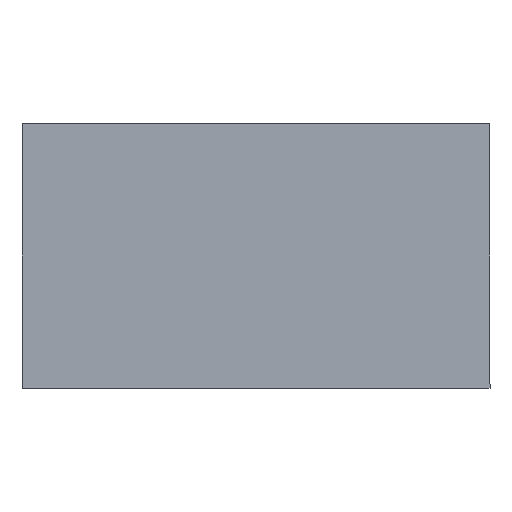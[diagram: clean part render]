
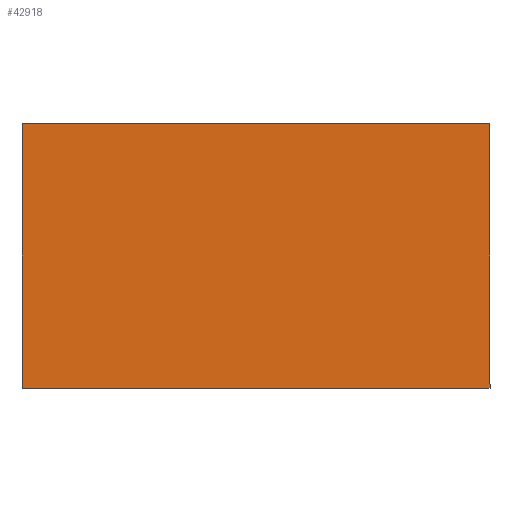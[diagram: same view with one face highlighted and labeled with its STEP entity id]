
A CAD part, front view. The second image highlights one B-rep face of the part: STEP entity #42918.
In plain terms, the highlighted planar face has unit normal (0, -1, 0).
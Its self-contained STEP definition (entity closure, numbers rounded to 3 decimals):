
#1155 = LINE ( 'NONE', #45382, #46923 ) ;
#1839 = CARTESIAN_POINT ( 'NONE',  ( 0., -8.783, 0. ) ) ;
#2292 = DIRECTION ( 'NONE',  ( 1., 0., 0. ) ) ;
#4275 = EDGE_CURVE ( 'NONE', #44515, #21369, #27216, .T. ) ;
#5646 = VERTEX_POINT ( 'NONE', #37057 ) ;
#7100 = DIRECTION ( 'NONE',  ( 0., 0., 1. ) ) ;
#8543 = VERTEX_POINT ( 'NONE', #19527 ) ;
#12028 = CARTESIAN_POINT ( 'NONE',  ( -16.291, -8.783, 9.249 ) ) ;
#19527 = CARTESIAN_POINT ( 'NONE',  ( 16.291, -8.783, -9.15 ) ) ;
#19616 = FACE_OUTER_BOUND ( 'NONE', #35547, .T. ) ;
#21369 = VERTEX_POINT ( 'NONE', #22717 ) ;
#21642 = ORIENTED_EDGE ( 'NONE', *, *, #46426, .F. ) ;
#22717 = CARTESIAN_POINT ( 'NONE',  ( 16.291, -8.783, 9.249 ) ) ;
#25698 = VECTOR ( 'NONE', #27884, 39.37 ) ;
#26872 = EDGE_CURVE ( 'NONE', #5646, #44515, #37528, .T. ) ;
#27216 = LINE ( 'NONE', #37791, #39029 ) ;
#27884 = DIRECTION ( 'NONE',  ( 0., 0., 1. ) ) ;
#31301 = VECTOR ( 'NONE', #33665, 39.37 ) ;
#33428 = DIRECTION ( 'NONE',  ( 0., 1., 0. ) ) ;
#33639 = PLANE ( 'NONE',  #51161 ) ;
#33665 = DIRECTION ( 'NONE',  ( -1., 0., 0. ) ) ;
#34937 = ORIENTED_EDGE ( 'NONE', *, *, #56451, .F. ) ;
#35547 = EDGE_LOOP ( 'NONE', ( #21642, #34937, #47900, #50996 ) ) ;
#37057 = CARTESIAN_POINT ( 'NONE',  ( -16.291, -8.783, -9.15 ) ) ;
#37528 = LINE ( 'NONE', #54460, #25698 ) ;
#37791 = CARTESIAN_POINT ( 'NONE',  ( -16.291, -8.783, 9.249 ) ) ;
#38131 = CARTESIAN_POINT ( 'NONE',  ( 16.291, -8.783, -9.15 ) ) ;
#39029 = VECTOR ( 'NONE', #2292, 39.37 ) ;
#40935 = DIRECTION ( 'NONE',  ( 0., 0., -1. ) ) ;
#42918 = ADVANCED_FACE ( 'NONE', ( #19616 ), #33639, .F. ) ;
#44515 = VERTEX_POINT ( 'NONE', #12028 ) ;
#45382 = CARTESIAN_POINT ( 'NONE',  ( 16.291, -8.783, 9.249 ) ) ;
#46426 = EDGE_CURVE ( 'NONE', #8543, #5646, #53481, .T. ) ;
#46923 = VECTOR ( 'NONE', #40935, 39.37 ) ;
#47900 = ORIENTED_EDGE ( 'NONE', *, *, #4275, .F. ) ;
#50996 = ORIENTED_EDGE ( 'NONE', *, *, #26872, .F. ) ;
#51161 = AXIS2_PLACEMENT_3D ( 'NONE', #1839, #33428, #7100 ) ;
#53481 = LINE ( 'NONE', #38131, #31301 ) ;
#54460 = CARTESIAN_POINT ( 'NONE',  ( -16.291, -8.783, -9.15 ) ) ;
#56451 = EDGE_CURVE ( 'NONE', #21369, #8543, #1155, .T. ) ;
